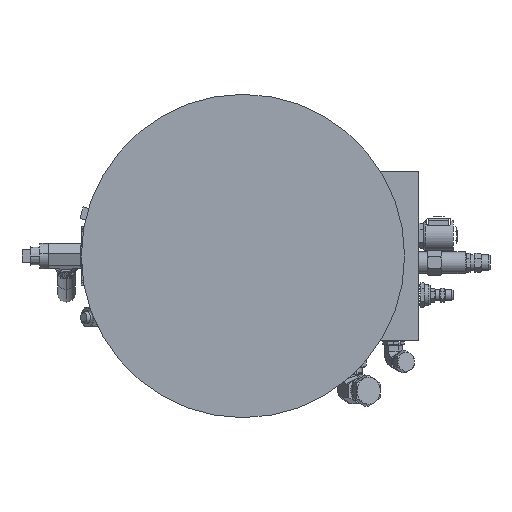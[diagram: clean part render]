
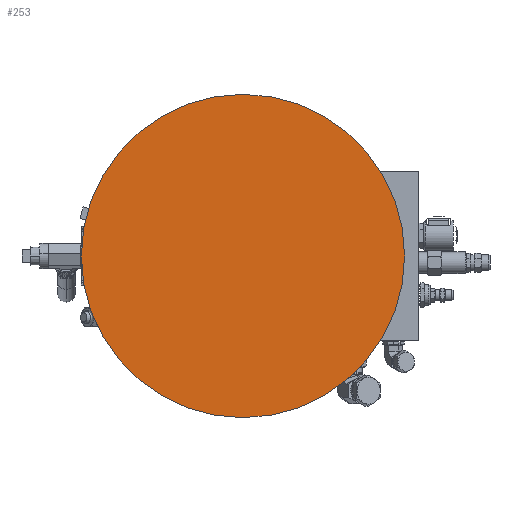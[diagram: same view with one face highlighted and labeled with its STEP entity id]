
A CAD part, front view. The second image highlights one B-rep face of the part: STEP entity #253.
In plain terms, the highlighted planar face has unit normal (0, -1, 0).
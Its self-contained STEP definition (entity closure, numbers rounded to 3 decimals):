
#206=CARTESIAN_POINT('',(0.,-0.177,0.));
#207=DIRECTION('',(0.,-1.,0.));
#208=DIRECTION('',(0.5,0.,0.866));
#209=AXIS2_PLACEMENT_3D('',#206,#207,#208);
#211=CARTESIAN_POINT('',(0.,-0.177,0.));
#212=DIRECTION('',(0.,1.,0.));
#213=DIRECTION('',(0.5,0.,0.866));
#214=AXIS2_PLACEMENT_3D('',#211,#212,#213);
#235=CARTESIAN_POINT('',(3.75,-0.177,6.495));
#237=VERTEX_POINT('',#235);
#239=CARTESIAN_POINT('',(-3.75,-0.177,-6.495));
#241=VERTEX_POINT('',#239);
#242=CARTESIAN_POINT('',(0.,-0.177,0.));
#243=DIRECTION('',(0.,1.,0.));
#244=DIRECTION('',(-0.5,0.,-0.866));
#245=AXIS2_PLACEMENT_3D('',#242,#243,#244);
#246=PLANE('',#245);
#248=ORIENTED_EDGE('',*,*,#247,.F.);
#250=ORIENTED_EDGE('',*,*,#249,.T.);
#251=EDGE_LOOP('',(#248,#250));
#252=FACE_OUTER_BOUND('',#251,.F.);
#253=ADVANCED_FACE('',(#252),#246,.F.);
#210=CIRCLE('',#209,7.5);
#215=CIRCLE('',#214,7.5);
#247=EDGE_CURVE('',#237,#241,#210,.T.);
#249=EDGE_CURVE('',#237,#241,#215,.T.);
